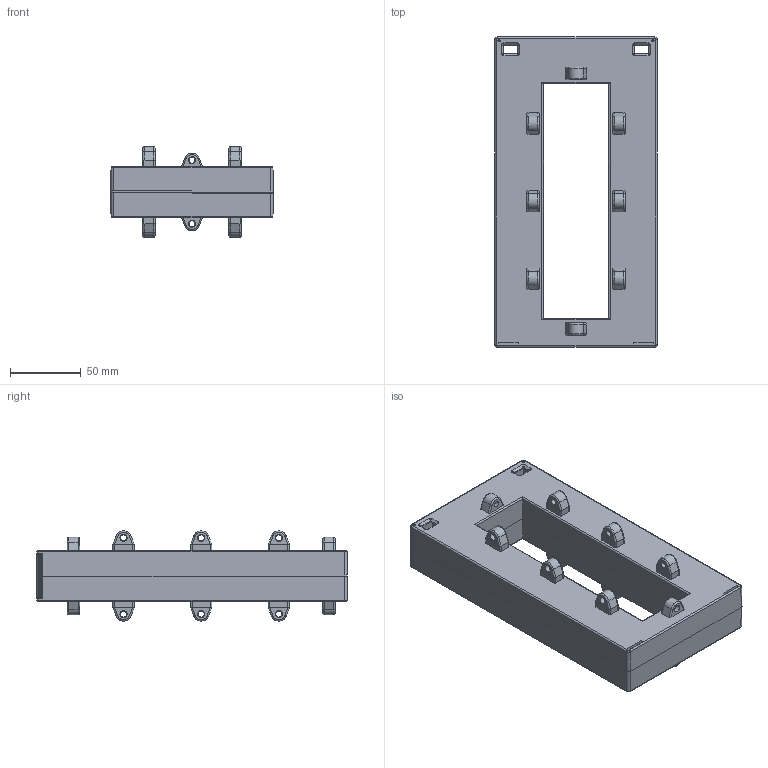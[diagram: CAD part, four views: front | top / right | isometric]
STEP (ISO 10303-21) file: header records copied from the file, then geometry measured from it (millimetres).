
FILE_DESCRIPTION(/* description */ (''),/* implementation_level */ '2;1');
FILE_NAME(/* name */ 'TU165.stp',/* time_stamp */ '2024-05-29T16:42:44+08:00',/* author */ (''),/* organization */ (''),/* preprocessor_version */ 'ST-DEVELOPER v18.102',/* originating_system */ 'SIEMENS PLM Software NX2206.1700',/* authorisation */ '');
FILE_SCHEMA (('AUTOMOTIVE_DESIGN { 1 0 10303 214 3 1 1 1 }'));
Length unit declared in the file: millimetre
Products named in the file (1): TU165_objects
Bounding box: 115.06 x 220 x 63.98 mm (x, y, z)
Volume: 161098.7 mm3; surface area: 163283 mm2
Topology: 4 solids, 4 shells, 836 faces, 2114 edges, 1332 vertices
Faces by surface type: plane 566, cylinder 166, bspline 56, extrusion 48
Full cylindrical faces by diameter (mm): 1.3 x4, 1.5 x4, 1.71 x4, 4.3 x16, 5 x16
Entity records: 25726 total; most frequent: CARTESIAN_POINT 5791, ORIENTED_EDGE 4076, DIRECTION 3956, EDGE_CURVE 2038, VECTOR 1602, LINE 1554, VERTEX_POINT 1316, AXIS2_PLACEMENT_3D 1177
